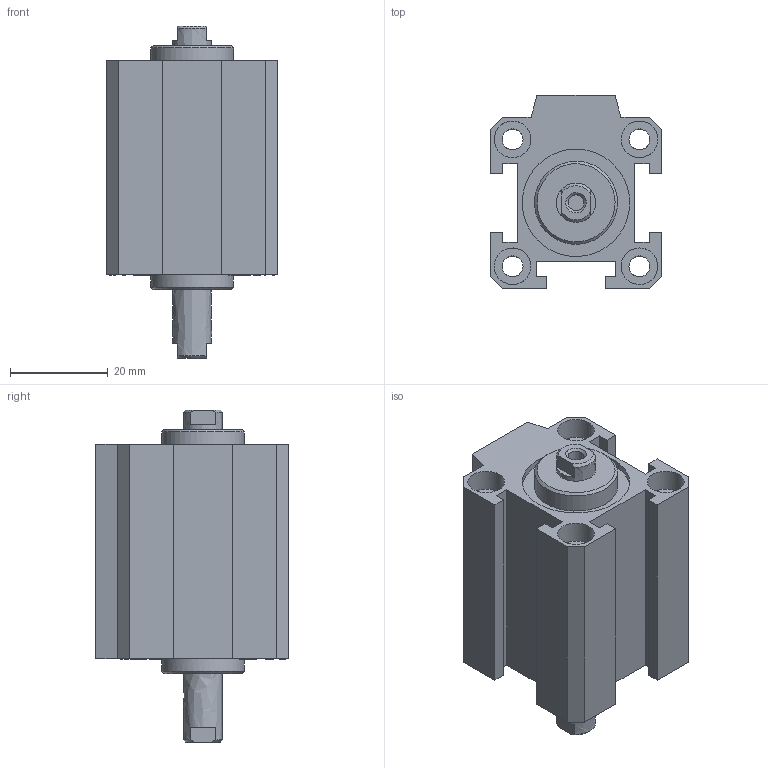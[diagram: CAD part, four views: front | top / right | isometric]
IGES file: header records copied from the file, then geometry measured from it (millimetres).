
Global section: file name: 1514_20_0010; native system: Autodesk Inventor 2014; preprocessor: unknown; author: A. Manieri; date: 20160824.110422; units: millimetre
Bounding box: 35 x 39.5 x 68 mm (x, y, z)
Volume: 40361.1 mm3; surface area: 20191.1 mm2
Topology: 2 solids, 2 shells, 104 faces, 271 edges, 191 vertices
Faces by surface type: bspline 104
